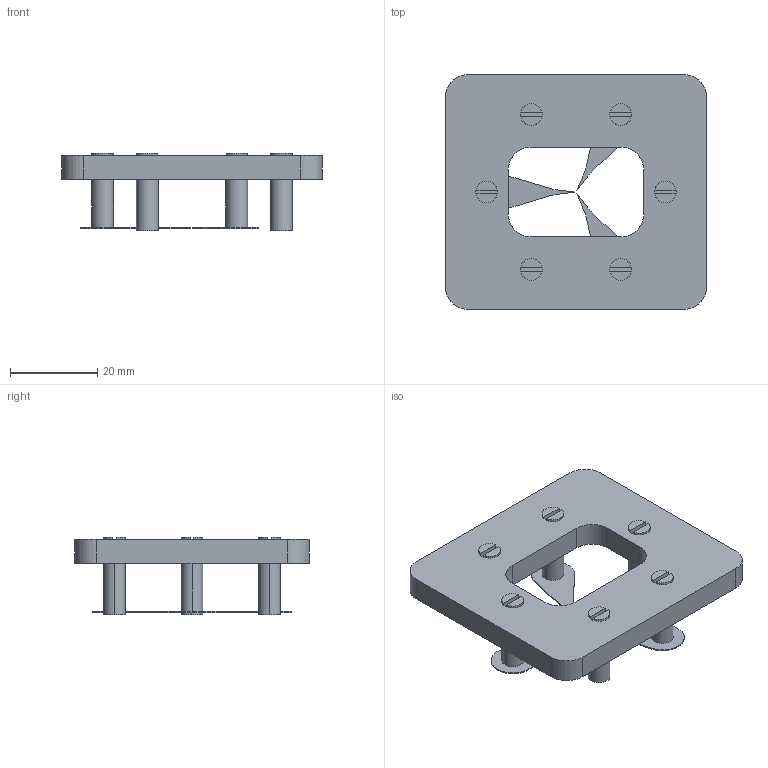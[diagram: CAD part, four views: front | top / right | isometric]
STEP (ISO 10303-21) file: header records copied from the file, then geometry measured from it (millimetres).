
FILE_DESCRIPTION (( 'STEP AP214' ), '1' );
FILE_NAME ('上層組合.STEP', '2026-07-11T11:00:49', ( '' ), ( '' ), 'SwSTEP 2.0', 'SolidWorks 2024', '' );
FILE_SCHEMA (( 'AUTOMOTIVE_DESIGN' ));
Length unit declared in the file: millimetre
Products named in the file (8): 零件1^上層組合; 零件2^上層組合; 短導柱; YOKE; yoke & core組合; 導柱; 上層組合; Magnetic poles_new
Assembly tree (9 placements, depth 3):
  零件1^上層組合
  零件2^上層組合
  上層組合
    Magnetic poles_new
    yoke & core組合
      YOKE
      短導柱  x3
      導柱  x3
Bounding box: 59.8 x 53.8 x 17.75 mm (x, y, z)
Volume: 15655.1 mm3; surface area: 9929.2 mm2
Topology: 10 solids, 10 shells, 129 faces, 309 edges, 206 vertices
Faces by surface type: plane 70, cylinder 59
Entity records: 2861 total; most frequent: DIRECTION 503, CARTESIAN_POINT 453, ORIENTED_EDGE 426, EDGE_CURVE 213, AXIS2_PLACEMENT_3D 192, VERTEX_POINT 142, VECTOR 119, LINE 119
